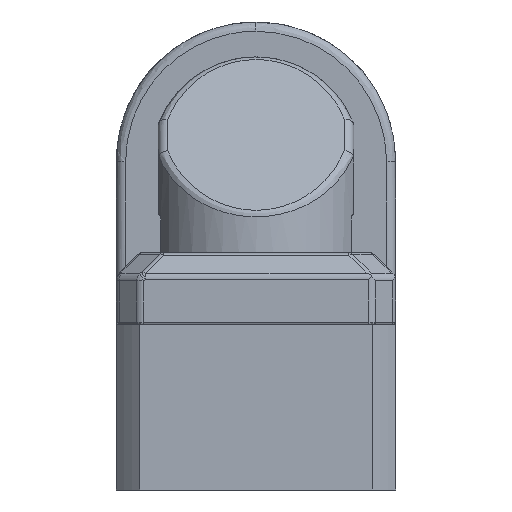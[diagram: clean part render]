
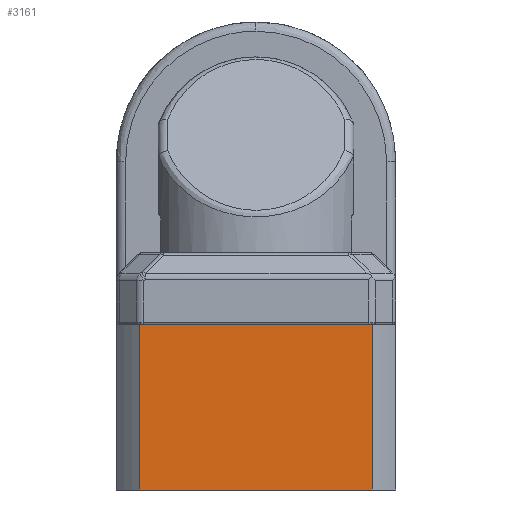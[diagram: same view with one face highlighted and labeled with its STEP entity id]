
A CAD part, front view. The second image highlights one B-rep face of the part: STEP entity #3161.
In plain terms, the highlighted planar face has unit normal (0, -1, 0).
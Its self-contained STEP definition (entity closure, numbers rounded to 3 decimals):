
#732 = DIRECTION ( 'NONE',  ( 0., 0., -1. ) ) ;
#944 = CARTESIAN_POINT ( 'NONE',  ( 24.92, -30., 0. ) ) ;
#1345 = AXIS2_PLACEMENT_3D ( 'NONE', #44778, #22797, #732 ) ;
#3161 = ADVANCED_FACE ( 'NONE', ( #14910 ), #19061, .T. ) ;
#3573 = CARTESIAN_POINT ( 'NONE',  ( -24.92, -30., -35.5 ) ) ;
#4708 = LINE ( 'NONE', #37330, #31868 ) ;
#4846 = VECTOR ( 'NONE', #33115, 1000. ) ;
#6934 = VERTEX_POINT ( 'NONE', #34015 ) ;
#9115 = EDGE_CURVE ( 'NONE', #24658, #9902, #4708, .T. ) ;
#9902 = VERTEX_POINT ( 'NONE', #40348 ) ;
#12354 = LINE ( 'NONE', #22609, #39476 ) ;
#13499 = VECTOR ( 'NONE', #34959, 1000. ) ;
#14910 = FACE_OUTER_BOUND ( 'NONE', #19437, .T. ) ;
#18709 = DIRECTION ( 'NONE',  ( 0., 0., -1. ) ) ;
#18985 = ORIENTED_EDGE ( 'NONE', *, *, #9115, .F. ) ;
#19029 = DIRECTION ( 'NONE',  ( -1., 0., 0. ) ) ;
#19061 = PLANE ( 'NONE',  #1345 ) ;
#19437 = EDGE_LOOP ( 'NONE', ( #42205, #33097, #18985, #38998 ) ) ;
#22609 = CARTESIAN_POINT ( 'NONE',  ( 0., -30., 0. ) ) ;
#22797 = DIRECTION ( 'NONE',  ( 0., -1., 0. ) ) ;
#24658 = VERTEX_POINT ( 'NONE', #944 ) ;
#25146 = CARTESIAN_POINT ( 'NONE',  ( -24.92, -30., 0. ) ) ;
#27321 = EDGE_CURVE ( 'NONE', #6934, #9902, #44030, .T. ) ;
#31227 = CARTESIAN_POINT ( 'NONE',  ( 0., -30., -35.5 ) ) ;
#31352 = EDGE_CURVE ( 'NONE', #41963, #6934, #42869, .T. ) ;
#31450 = EDGE_CURVE ( 'NONE', #24658, #41963, #12354, .T. ) ;
#31868 = VECTOR ( 'NONE', #18709, 1000. ) ;
#33097 = ORIENTED_EDGE ( 'NONE', *, *, #27321, .T. ) ;
#33115 = DIRECTION ( 'NONE',  ( 0., 0., -1. ) ) ;
#34015 = CARTESIAN_POINT ( 'NONE',  ( -24.92, -30., -35.5 ) ) ;
#34959 = DIRECTION ( 'NONE',  ( 1., 0., 0. ) ) ;
#37330 = CARTESIAN_POINT ( 'NONE',  ( 24.92, -30., 0. ) ) ;
#38998 = ORIENTED_EDGE ( 'NONE', *, *, #31450, .T. ) ;
#39476 = VECTOR ( 'NONE', #19029, 1000. ) ;
#40348 = CARTESIAN_POINT ( 'NONE',  ( 24.92, -30., -35.5 ) ) ;
#41963 = VERTEX_POINT ( 'NONE', #25146 ) ;
#42205 = ORIENTED_EDGE ( 'NONE', *, *, #31352, .T. ) ;
#42869 = LINE ( 'NONE', #3573, #4846 ) ;
#44030 = LINE ( 'NONE', #31227, #13499 ) ;
#44778 = CARTESIAN_POINT ( 'NONE',  ( -30., -30., -35.5 ) ) ;
